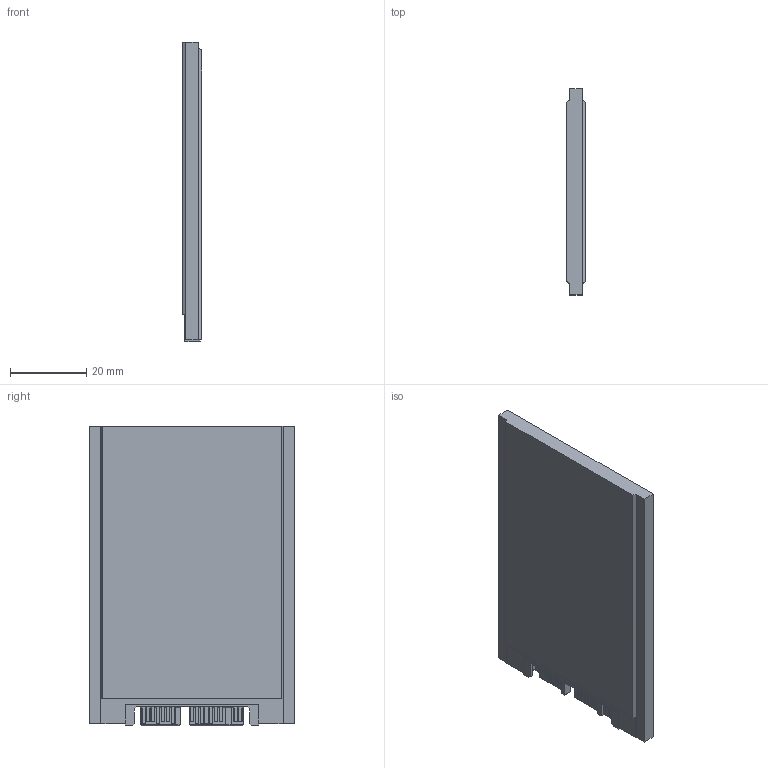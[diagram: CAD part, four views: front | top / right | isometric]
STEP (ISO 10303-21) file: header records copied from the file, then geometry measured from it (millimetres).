
FILE_DESCRIPTION(/* description */ ('VariCAD 2010-3.03 AP-214'),/* implementation_level */ '2;1');
FILE_NAME(/* name */ '0353-02-12',/* time_stamp */ '2011-03-01T17:33:23-07:00',/* author */ (''),/* organization */ (''),/* preprocessor_version */ 'ST-DEVELOPER v12',/* originating_system */ 'VariCAD 2010-3.03; kernel version (20100102)',/* authorisation */ '');
FILE_SCHEMA (('AUTOMOTIVE_DESIGN'));
Length unit declared in the file: millimetre
Products named in the file (1): Part
Bounding box: 5 x 54 x 78.5 mm (x, y, z)
Volume: 19462 mm3; surface area: 9738.7 mm2
Topology: 1 solids, 1 shells, 357 faces, 979 edges, 638 vertices
Faces by surface type: plane 357
Entity records: 13500 total; most frequent: CARTESIAN_POINT 1976, ORIENTED_EDGE 1958, DIRECTION 1697, EDGE_CURVE 979, LINE 979, VECTOR 979, VERTEX_POINT 638, EDGE_LOOP 371
